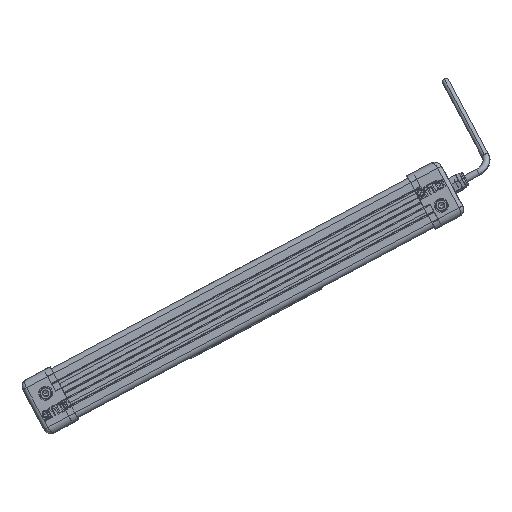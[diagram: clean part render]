
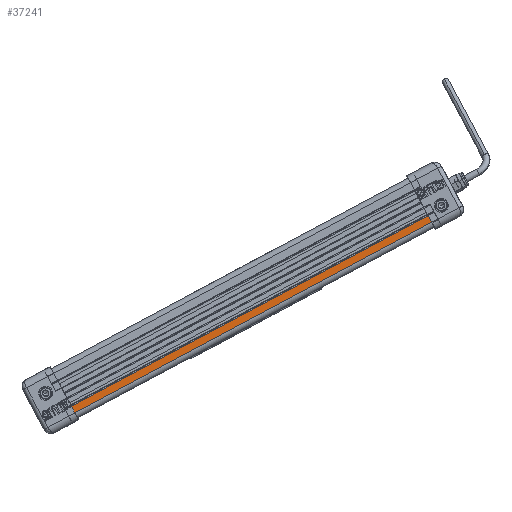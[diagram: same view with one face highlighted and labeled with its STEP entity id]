
A CAD part, front view. The second image highlights one B-rep face of the part: STEP entity #37241.
In plain terms, the highlighted planar face has unit normal (0, -1, 0) as drawn and (-1, 0, 0) by its records, which use the part's own axes.
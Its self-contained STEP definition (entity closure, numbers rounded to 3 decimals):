
#746 = CARTESIAN_POINT ( 'NONE',  ( -9., -10.5, 299. ) ) ;
#1440 = EDGE_LOOP ( 'NONE', ( #57808, #22903, #49498, #45677 ) ) ;
#1549 = CARTESIAN_POINT ( 'NONE',  ( -9., -10.5, 299. ) ) ;
#2607 = VECTOR ( 'NONE', #14494, 1000. ) ;
#3101 = CARTESIAN_POINT ( 'NONE',  ( -9., -10.5, 0. ) ) ;
#3843 = LINE ( 'NONE', #12903, #8308 ) ;
#8308 = VECTOR ( 'NONE', #20543, 1000. ) ;
#12903 = CARTESIAN_POINT ( 'NONE',  ( -9., -10.5, 299. ) ) ;
#13112 = EDGE_CURVE ( 'NONE', #25515, #25266, #3843, .T. ) ;
#14494 = DIRECTION ( 'NONE',  ( 0., 0., -1. ) ) ;
#15579 = FACE_OUTER_BOUND ( 'NONE', #1440, .T. ) ;
#16359 = CARTESIAN_POINT ( 'NONE',  ( -9., -16., 0. ) ) ;
#18526 = EDGE_CURVE ( 'NONE', #25266, #42768, #46102, .T. ) ;
#20543 = DIRECTION ( 'NONE',  ( 0., 0., -1. ) ) ;
#21051 = EDGE_CURVE ( 'NONE', #25515, #22819, #46057, .T. ) ;
#22819 = VERTEX_POINT ( 'NONE', #30782 ) ;
#22903 = ORIENTED_EDGE ( 'NONE', *, *, #55667, .F. ) ;
#23480 = DIRECTION ( 'NONE',  ( 0., 1., 0. ) ) ;
#24259 = CARTESIAN_POINT ( 'NONE',  ( -9., -10.5, 0. ) ) ;
#25266 = VERTEX_POINT ( 'NONE', #24259 ) ;
#25515 = VERTEX_POINT ( 'NONE', #31206 ) ;
#26228 = VECTOR ( 'NONE', #38732, 1000. ) ;
#30782 = CARTESIAN_POINT ( 'NONE',  ( -9., -16., 299. ) ) ;
#31149 = LINE ( 'NONE', #44913, #2607 ) ;
#31206 = CARTESIAN_POINT ( 'NONE',  ( -9., -10.5, 299. ) ) ;
#36390 = DIRECTION ( 'NONE',  ( 0., -1., 0. ) ) ;
#36615 = DIRECTION ( 'NONE',  ( 1., 0., 0. ) ) ;
#37241 = ADVANCED_FACE ( 'NONE', ( #15579 ), #50957, .F. ) ;
#38732 = DIRECTION ( 'NONE',  ( 0., -1., 0. ) ) ;
#42768 = VERTEX_POINT ( 'NONE', #16359 ) ;
#44913 = CARTESIAN_POINT ( 'NONE',  ( -9., -16., 299. ) ) ;
#45677 = ORIENTED_EDGE ( 'NONE', *, *, #13112, .T. ) ;
#46057 = LINE ( 'NONE', #746, #57182 ) ;
#46102 = LINE ( 'NONE', #3101, #26228 ) ;
#49498 = ORIENTED_EDGE ( 'NONE', *, *, #21051, .F. ) ;
#50957 = PLANE ( 'NONE',  #51001 ) ;
#51001 = AXIS2_PLACEMENT_3D ( 'NONE', #1549, #36615, #23480 ) ;
#55667 = EDGE_CURVE ( 'NONE', #22819, #42768, #31149, .T. ) ;
#57182 = VECTOR ( 'NONE', #36390, 1000. ) ;
#57808 = ORIENTED_EDGE ( 'NONE', *, *, #18526, .T. ) ;
